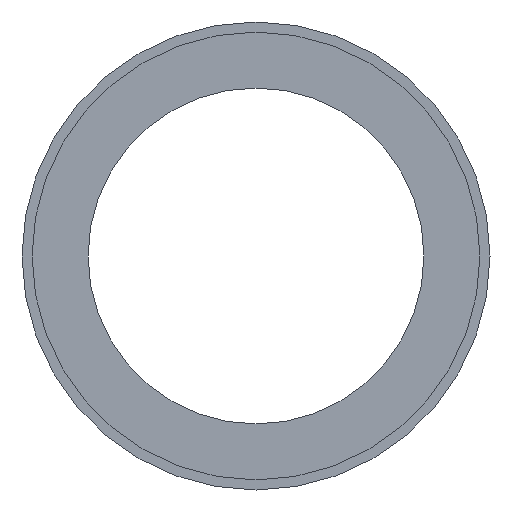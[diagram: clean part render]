
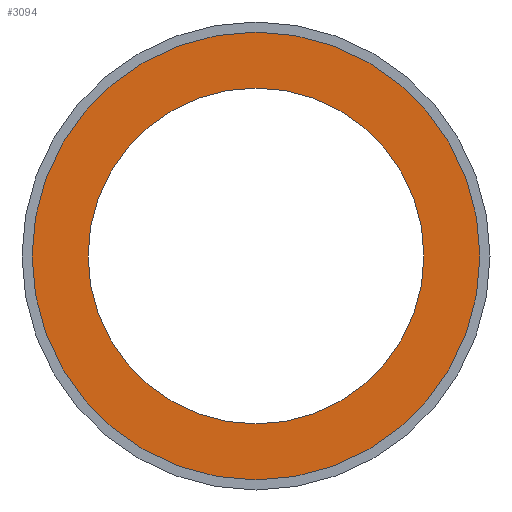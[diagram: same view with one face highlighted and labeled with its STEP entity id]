
A CAD part, front view. The second image highlights one B-rep face of the part: STEP entity #3094.
In plain terms, the highlighted planar face has unit normal (0, -1, 0).
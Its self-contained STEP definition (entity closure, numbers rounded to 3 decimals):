
#129 = ORIENTED_EDGE ( 'NONE', *, *, #680, .F. ) ;
#290 = FACE_OUTER_BOUND ( 'NONE', #2818, .T. ) ;
#332 = AXIS2_PLACEMENT_3D ( 'NONE', #1419, #3872, #1777 ) ;
#353 = ORIENTED_EDGE ( 'NONE', *, *, #405, .T. ) ;
#400 = CARTESIAN_POINT ( 'NONE',  ( 0., -27., 75. ) ) ;
#405 = EDGE_CURVE ( 'NONE', #2266, #2326, #842, .T. ) ;
#442 = AXIS2_PLACEMENT_3D ( 'NONE', #3207, #3556, #4276 ) ;
#680 = EDGE_CURVE ( 'NONE', #4160, #4063, #3749, .T. ) ;
#830 = CIRCLE ( 'NONE', #2230, 75. ) ;
#842 = CIRCLE ( 'NONE', #1568, 100. ) ;
#1047 = CIRCLE ( 'NONE', #332, 100. ) ;
#1108 = CARTESIAN_POINT ( 'NONE',  ( 0., -27., -75. ) ) ;
#1173 = CARTESIAN_POINT ( 'NONE',  ( 0., -27., 75. ) ) ;
#1196 = ORIENTED_EDGE ( 'NONE', *, *, #2973, .T. ) ;
#1419 = CARTESIAN_POINT ( 'NONE',  ( 0., -27., 0. ) ) ;
#1568 = AXIS2_PLACEMENT_3D ( 'NONE', #3745, #2346, #2690 ) ;
#1769 = CARTESIAN_POINT ( 'NONE',  ( 0., -27., 100. ) ) ;
#1777 = DIRECTION ( 'NONE',  ( 0., 0., -1. ) ) ;
#1783 = CARTESIAN_POINT ( 'NONE',  ( 0., -27., -100. ) ) ;
#1813 = FACE_BOUND ( 'NONE', #2525, .T. ) ;
#1850 = DIRECTION ( 'NONE',  ( 0., 0., 1. ) ) ;
#2180 = EDGE_CURVE ( 'NONE', #4063, #4160, #830, .T. ) ;
#2230 = AXIS2_PLACEMENT_3D ( 'NONE', #2409, #4516, #3468 ) ;
#2266 = VERTEX_POINT ( 'NONE', #1769 ) ;
#2326 = VERTEX_POINT ( 'NONE', #1783 ) ;
#2346 = DIRECTION ( 'NONE',  ( 0., -1., 0. ) ) ;
#2409 = CARTESIAN_POINT ( 'NONE',  ( 0., -27., 0. ) ) ;
#2424 = ORIENTED_EDGE ( 'NONE', *, *, #2180, .F. ) ;
#2525 = EDGE_LOOP ( 'NONE', ( #129, #2424 ) ) ;
#2690 = DIRECTION ( 'NONE',  ( 0., 0., -1. ) ) ;
#2818 = EDGE_LOOP ( 'NONE', ( #1196, #353 ) ) ;
#2973 = EDGE_CURVE ( 'NONE', #2326, #2266, #1047, .T. ) ;
#3094 = ADVANCED_FACE ( 'NONE', ( #1813, #290 ), #3270, .F. ) ;
#3207 = CARTESIAN_POINT ( 'NONE',  ( 0., -27., 0. ) ) ;
#3270 = PLANE ( 'NONE',  #3614 ) ;
#3468 = DIRECTION ( 'NONE',  ( 0., 0., -1. ) ) ;
#3556 = DIRECTION ( 'NONE',  ( 0., -1., 0. ) ) ;
#3614 = AXIS2_PLACEMENT_3D ( 'NONE', #1173, #3952, #1850 ) ;
#3745 = CARTESIAN_POINT ( 'NONE',  ( 0., -27., 0. ) ) ;
#3749 = CIRCLE ( 'NONE', #442, 75. ) ;
#3872 = DIRECTION ( 'NONE',  ( 0., -1., 0. ) ) ;
#3952 = DIRECTION ( 'NONE',  ( 0., 1., 0. ) ) ;
#4063 = VERTEX_POINT ( 'NONE', #400 ) ;
#4160 = VERTEX_POINT ( 'NONE', #1108 ) ;
#4276 = DIRECTION ( 'NONE',  ( 0., 0., -1. ) ) ;
#4516 = DIRECTION ( 'NONE',  ( 0., -1., 0. ) ) ;
